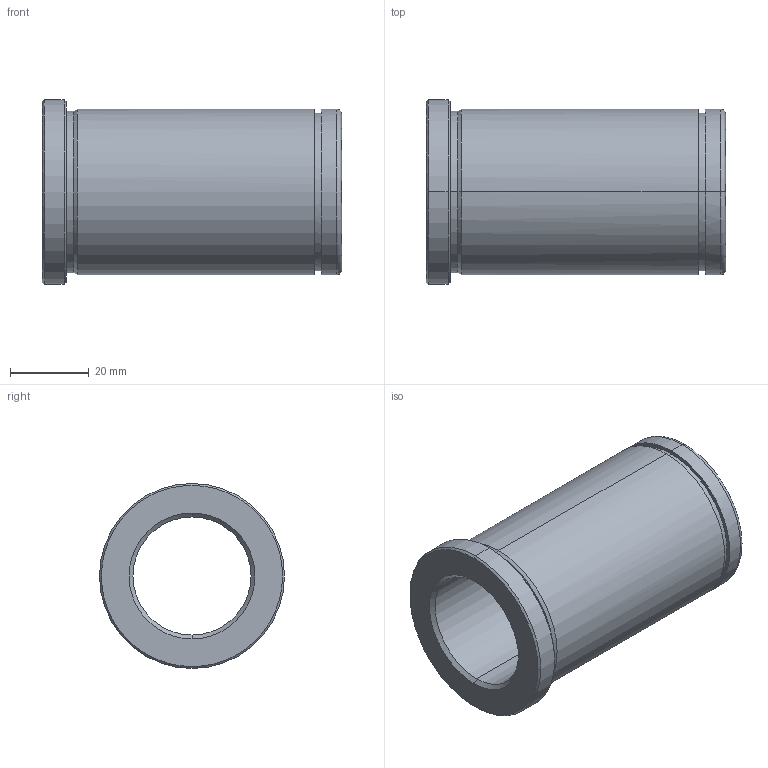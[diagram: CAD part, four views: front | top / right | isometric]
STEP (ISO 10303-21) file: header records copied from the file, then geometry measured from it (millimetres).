
FILE_DESCRIPTION(('CATIA V5 STEP Exchange'),'2;1');
FILE_NAME('C:\Users\Utente\Desktop\IO LAVORO\3D X SITO CF\X SITO\PLASTICA\553\553-30X76.stp','2021-05-26T18:22:55+00:00',('none'),('none'),'CATIA Version 5 Release 20 GA (IN-10)','CATIA V5 STEP AP203','none');
FILE_SCHEMA(('CONFIG_CONTROL_DESIGN'));
Length unit declared in the file: millimetre
Products named in the file (1): 553-30X76
Bounding box: 76 x 47 x 47 mm (x, y, z)
Volume: 53016.2 mm3; surface area: 19354.2 mm2
Topology: 1 solids, 1 shells, 29 faces, 92 edges, 68 vertices
Faces by surface type: cylinder 12, cone 8, plane 5, torus 4
Entity records: 1228 total; most frequent: CARTESIAN_POINT 378, ORIENTED_EDGE 184, DIRECTION 134, EDGE_CURVE 92, AXIS2_PLACEMENT_3D 86, VERTEX_POINT 68, CIRCLE 56, EDGE_LOOP 34
